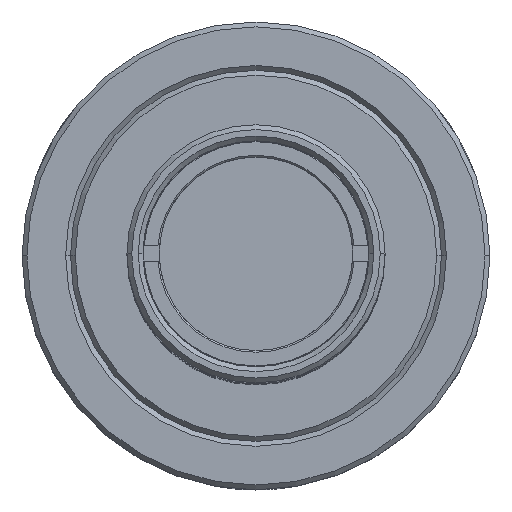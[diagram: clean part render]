
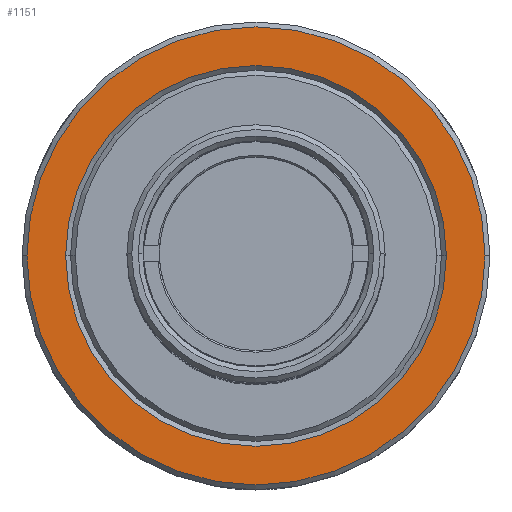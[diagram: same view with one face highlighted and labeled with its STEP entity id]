
A CAD part, top view. The second image highlights one B-rep face of the part: STEP entity #1151.
In plain terms, the highlighted planar face has unit normal (0, 0, 1).
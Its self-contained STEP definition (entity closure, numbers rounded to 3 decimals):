
#970 = EDGE_CURVE ( 'NONE', #1511, #1564, #3983, .T. ) ;
#971 = EDGE_CURVE ( 'NONE', #1566, #1520, #3997, .T. ) ;
#1115 = ORIENTED_EDGE ( 'NONE', *, *, #971, .T. ) ;
#1117 = EDGE_LOOP ( 'NONE', ( #1119, #1154 ) ) ;
#1118 = ORIENTED_EDGE ( 'NONE', *, *, #1577, .T. ) ;
#1119 = ORIENTED_EDGE ( 'NONE', *, *, #970, .T. ) ;
#1151 = ADVANCED_FACE ( 'NONE', ( #4244, #4215 ), #4253, .F. ) ;
#1153 = EDGE_LOOP ( 'NONE', ( #1118, #1115 ) ) ;
#1154 = ORIENTED_EDGE ( 'NONE', *, *, #1571, .T. ) ;
#1511 = VERTEX_POINT ( 'NONE', #2293 ) ;
#1520 = VERTEX_POINT ( 'NONE', #2349 ) ;
#1564 = VERTEX_POINT ( 'NONE', #2453 ) ;
#1566 = VERTEX_POINT ( 'NONE', #2448 ) ;
#1571 = EDGE_CURVE ( 'NONE', #1564, #1511, #2401, .T. ) ;
#1577 = EDGE_CURVE ( 'NONE', #1520, #1566, #2418, .T. ) ;
#2293 = CARTESIAN_POINT ( 'NONE',  ( -14.2, 0., -31.73 ) ) ;
#2349 = CARTESIAN_POINT ( 'NONE',  ( 11.8, 0., -31.73 ) ) ;
#2381 = CARTESIAN_POINT ( 'NONE',  ( 0., 0., -31.73 ) ) ;
#2390 = AXIS2_PLACEMENT_3D ( 'NONE', #2381, #2434, #2413 ) ;
#2401 = CIRCLE ( 'NONE', #2390, 14.2 ) ;
#2413 = DIRECTION ( 'NONE',  ( -1., 0., 0. ) ) ;
#2418 = CIRCLE ( 'NONE', #2427, 11.8 ) ;
#2427 = AXIS2_PLACEMENT_3D ( 'NONE', #2433, #2432, #2428 ) ;
#2428 = DIRECTION ( 'NONE',  ( -1., 0., 0. ) ) ;
#2432 = DIRECTION ( 'NONE',  ( 0., 0., -1. ) ) ;
#2433 = CARTESIAN_POINT ( 'NONE',  ( 0., 0., -31.73 ) ) ;
#2434 = DIRECTION ( 'NONE',  ( 0., 0., 1. ) ) ;
#2448 = CARTESIAN_POINT ( 'NONE',  ( -11.8, 0., -31.73 ) ) ;
#2453 = CARTESIAN_POINT ( 'NONE',  ( 14.2, 0., -31.73 ) ) ;
#3973 = DIRECTION ( 'NONE',  ( -1., 0., 0. ) ) ;
#3974 = DIRECTION ( 'NONE',  ( 0., 0., -1. ) ) ;
#3979 = AXIS2_PLACEMENT_3D ( 'NONE', #3995, #3974, #3973 ) ;
#3980 = DIRECTION ( 'NONE',  ( -1., 0., 0. ) ) ;
#3981 = DIRECTION ( 'NONE',  ( 0., 0., 1. ) ) ;
#3982 = AXIS2_PLACEMENT_3D ( 'NONE', #3996, #3981, #3980 ) ;
#3983 = CIRCLE ( 'NONE', #3982, 14.2 ) ;
#3995 = CARTESIAN_POINT ( 'NONE',  ( 0., 0., -31.73 ) ) ;
#3996 = CARTESIAN_POINT ( 'NONE',  ( 0., 0., -31.73 ) ) ;
#3997 = CIRCLE ( 'NONE', #3979, 11.8 ) ;
#4215 = FACE_OUTER_BOUND ( 'NONE', #1117, .T. ) ;
#4243 = AXIS2_PLACEMENT_3D ( 'NONE', #4266, #4265, #4252 ) ;
#4244 = FACE_BOUND ( 'NONE', #1153, .T. ) ;
#4252 = DIRECTION ( 'NONE',  ( -1., 0., 0. ) ) ;
#4253 = PLANE ( 'NONE',  #4243 ) ;
#4265 = DIRECTION ( 'NONE',  ( 0., 0., -1. ) ) ;
#4266 = CARTESIAN_POINT ( 'NONE',  ( 0., 11.5, -31.73 ) ) ;
